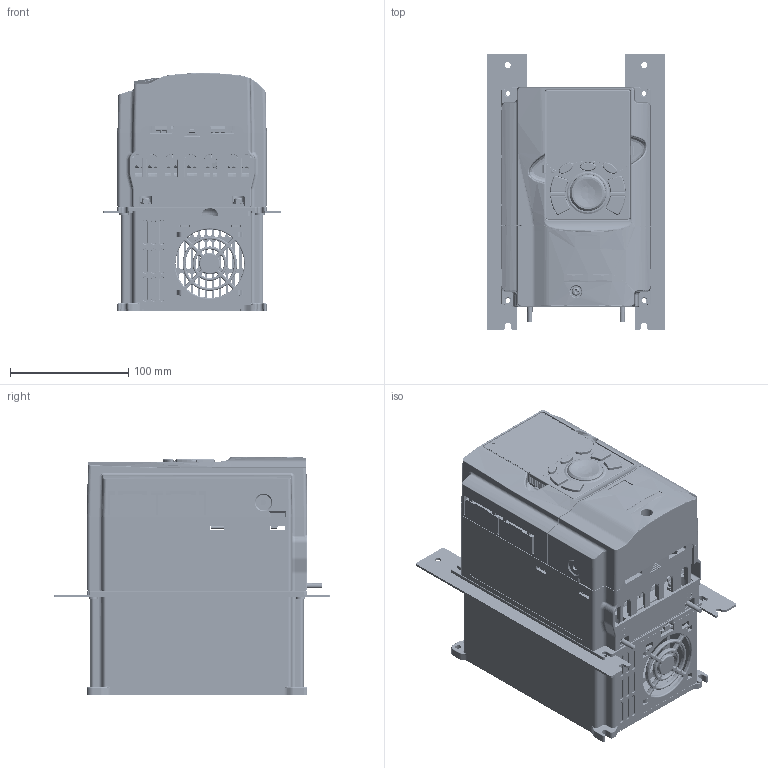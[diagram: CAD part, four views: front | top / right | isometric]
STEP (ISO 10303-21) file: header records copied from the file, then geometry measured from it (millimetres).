
FILE_DESCRIPTION((''),'2;1');
FILE_NAME('ST600-5R5G3_ASM','2019-07-04T',('Administrator'),(''),'PRO/ENGINEER BY PARAMETRIC TECHNOLOGY CORPORATION, 2010100','PRO/ENGINEER BY PARAMETRIC TECHNOLOGY CORPORATION, 2010100','');
FILE_SCHEMA(('CONFIG_CONTROL_DESIGN'));
Products named in the file (57): 80740160; 80740161; 80740161SY; 80740176; 80310508; 70610511; 70610512; 80880447; 80810117; 80810117SY; 80810118; 80740163; 80740162; 80880456; 80880456SY; 40810091_ASM; 80740164; 80740164SY; 36002-00065; 39009-00082; 17003-02723_20180403; E-MJ0204-100T; 17003-02723_20180403_ASM; KEY-LCD01-ZY-600-ES_ASM; KEY-LCD01-ZY-600_ASM; TB1100-03_9P_YWT; PW1735_DR1_0328; PW1735_DR1_0328_ASM; PW1735_DR1_1_ASM; 40850647_ASM; PW1735_DT1_ASM; M3X16_TER_ASM; PW1735_CP1_ASM; PA1704; E-DIN0309-5_08MM-TA; E-DIN0302-5_08MM-TA; E-USB04-TFA; PA1704_ASM; 88170506; 80380478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
Assembly tree (82 placements, depth 5):
  ST600-5R5G3_ASM
    80740160
    80740161
    80740161SY
    80740176
    80310508
    70610511
    70610512
    80880447
    80810117
    80810117SY
    80810118
    KEY-LCD01-ZY-600_ASM
      80740163
      40810091_ASM
        80740162
        80880456
        80880456SY
      80740164
      80740164SY
      KEY-LCD01-ZY-600-ES_ASM
        36002-00065
        39009-00082
        17003-02723_20180403_ASM
          17003-02723_20180403
          E-MJ0204-100T
    ST600-5R5G3-ES_ASM
      PW1735_DR1_1_ASM
        TB1100-03_9P_YWT
        PW1735_DR1_0328_ASM
          PW1735_DR1_0328
      40850647_ASM
      PW1735_DT1_ASM
      PW1735_CP1_ASM
        M3X16_TER_ASM  x2
      PA1704_ASM
        PA1704
        E-DIN0309-5_08MM-TA
        E-DIN0302-5_08MM-TA
        E-MJ0204-100T
        E-USB04-TFA
      88170506
      40800083_ASM
        80380478_ASM
          80380478
          S-M4-ZC  x2
        80380477_ASM
          80380477
          S-M4-ZC  x2
      JS_ASM
        GTNR-2D5-4_ASM  x11
          GTNR-2D5-4
          GTNR-2D5-4-DL
    ST600-5R5G3-FS_ASM
      GB9074_4_M4X10  x6
      GB9074_4_M4X12  x4
      GB9074_4_M4X16
      GB845_76_M3X8_ZU  x4
      PM_M4X10_DCR
Bounding box: 150.2 x 233.9 x 200.93 mm (x, y, z)
Volume: 817499 mm3; surface area: 766283.1 mm2
Topology: 82 solids, 82 shells, 14994 faces, 41026 edges, 26570 vertices
Faces by surface type: plane 7392, cylinder 5650, torus 731, bspline 404, extrusion 388, cone 334, sphere 94, revolution 1
Entity records: 456076 total; most frequent: CARTESIAN_POINT 114226, ORIENTED_EDGE 71162, DIRECTION 70419, EDGE_CURVE 35581, AXIS2_PLACEMENT_3D 24399, VERTEX_POINT 23097, VECTOR 21620, LINE 21232
